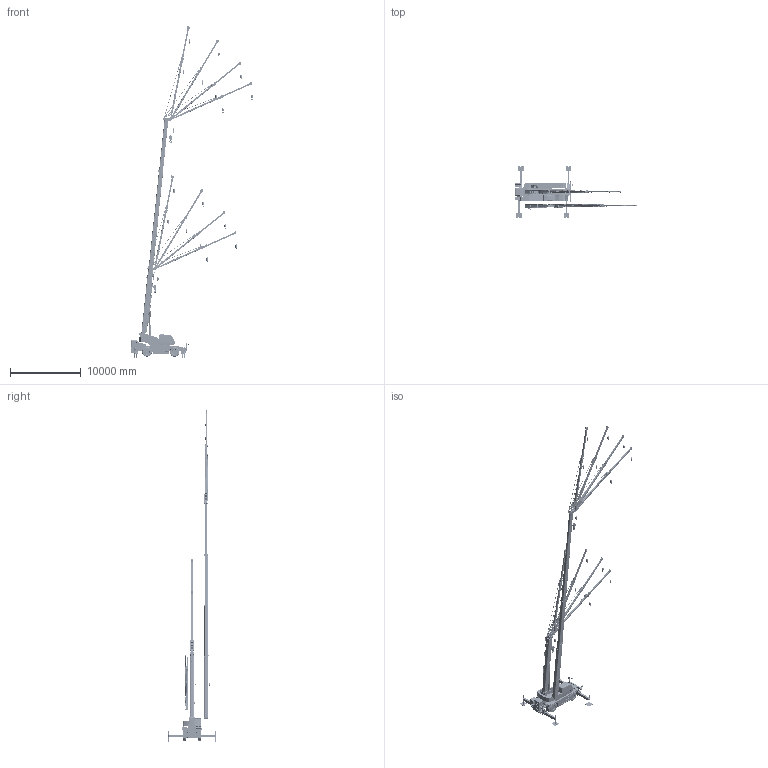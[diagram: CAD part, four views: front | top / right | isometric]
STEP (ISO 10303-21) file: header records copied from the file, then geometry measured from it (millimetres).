
FILE_DESCRIPTION(('CATIA V5 STEP Exchange','CAx-IF Rec.Pracs.--- Model Styling and Organization---1.4--- 2014-01-23'),'2;1');
FILE_NAME('\\Iba001\cad\CR\HP用CADデータ\02A\STP\SR-250Rf 3D.stp','2019-11-28T04:26:08+00:00',('none'),('none'),'CATIA Version 5-6 Release 2017 SP5 HF19','CATIA V5 STEP AP214','none');
FILE_SCHEMA(('AUTOMOTIVE_DESIGN { 1 0 10303 214 1 1 1 1 }'));
Products named in the file (42): SR-250Rf 3D; SR-250Rf UPPER; SR-250Rf UPPER STRUCTURE; SR-250Rf TABLE; SR-250Rf CAB; SR-250Rf MACHINE ROOM; SR-250Rf DERRICK CYLINDER-1; SR-250Rf DERRICK CYLINDER-2; SR-250Rf BOOM JIB Min; SR-250Rf BOOM Min; SR-250Rf BOOM1; SR-250Rf BOOM2; SR-250Rf BOOM3; SR-250Rf BOOM4; SR-250Rf JIB; SR-250Rf JIB 8.7m 5deg; SR-250Rf JIB1; SR-250Rf JIB2; SR-250Rf JIB3; SR-250Rf JIB TENSION ROD; SR-250Rf JIB 8.7m 25deg; SR-250Rf JIB 8.7m 45deg; SR-250Rf JIB 8.7m 60deg; SR-250Rf JIB 13.1m 5deg; SR-250Rf JIB 13.1m 25deg; SR-250Rf JIB 13.1m 45deg; SR-250Rf JIB 13.1m 60deg; SR-250Rf JIB Stowed; SR-250Rf JIB TENSION ROD Stowed; SR-250Rf HOOK 4t; SR-250Rf HOOK 25t; SR-250Rf BOOM JIB Max; SR-250Rf BOOM Max; SR-250Rf CARRIER H Type; SR-250Rf CHASSIS H Type; SR-250Rf OUTRIGGER; SR-250Rf BEAM F-L; SR-250Rf BEAM H; SR-250Rf SEAT-OUTRIGGER 800X800X20; SR-250Rf BEAM F-R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
Assembly tree (101 placements, depth 6):
  SR-250Rf 3D
    SR-250Rf UPPER
      SR-250Rf UPPER STRUCTURE
        SR-250Rf TABLE
        SR-250Rf CAB
        SR-250Rf MACHINE ROOM
        SR-250Rf DERRICK CYLINDER-1
        SR-250Rf DERRICK CYLINDER-2
      SR-250Rf BOOM JIB Min
        SR-250Rf BOOM Min
          SR-250Rf BOOM1
          SR-250Rf BOOM2
          SR-250Rf BOOM3
          SR-250Rf BOOM4
        SR-250Rf JIB
          SR-250Rf JIB 8.7m 5deg
            SR-250Rf JIB1
            SR-250Rf JIB2
            SR-250Rf JIB3
            SR-250Rf JIB TENSION ROD
          SR-250Rf JIB 8.7m 25deg
            SR-250Rf JIB1
            SR-250Rf JIB2
            SR-250Rf JIB3
            SR-250Rf JIB TENSION ROD
          SR-250Rf JIB 8.7m 45deg
            SR-250Rf JIB1
            SR-250Rf JIB2
            SR-250Rf JIB3
            SR-250Rf JIB TENSION ROD
          SR-250Rf JIB 8.7m 60deg
            SR-250Rf JIB1
            SR-250Rf JIB2
            SR-250Rf JIB3
            SR-250Rf JIB TENSION ROD
          SR-250Rf JIB 13.1m 5deg
            SR-250Rf JIB1
            SR-250Rf JIB2
            SR-250Rf JIB3
            SR-250Rf JIB TENSION ROD
          SR-250Rf JIB 13.1m 25deg
            SR-250Rf JIB1
            SR-250Rf JIB2
            SR-250Rf JIB3
            SR-250Rf JIB TENSION ROD
          SR-250Rf JIB 13.1m 45deg
            SR-250Rf JIB1
            SR-250Rf JIB2
            SR-250Rf JIB3
            SR-250Rf JIB TENSION ROD
          SR-250Rf JIB 13.1m 60deg
            SR-250Rf JIB1
            SR-250Rf JIB2
            SR-250Rf JIB3
            SR-250Rf JIB TENSION ROD
        SR-250Rf JIB Stowed
          SR-250Rf JIB1
          SR-250Rf JIB2
          SR-250Rf JIB3
          SR-250Rf JIB TENSION ROD Stowed
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Bounding box: 17098.3 x 7400 x 46772.35 mm (x, y, z)
Volume: 54150662259.2 mm3; surface area: 681343824.3 mm2
Topology: 234 solids, 239 shells, 16528 faces, 45357 edges, 29476 vertices
Faces by surface type: plane 10548, cylinder 4326, extrusion 649, torus 563, bspline 340, cone 90, sphere 12
Entity records: 154534 total; most frequent: CARTESIAN_POINT 58315, ORIENTED_EDGE 22392, DIRECTION 14596, EDGE_CURVE 11196, VERTEX_POINT 7330, VECTOR 7258, LINE 6769, AXIS2_PLACEMENT_3D 4663
